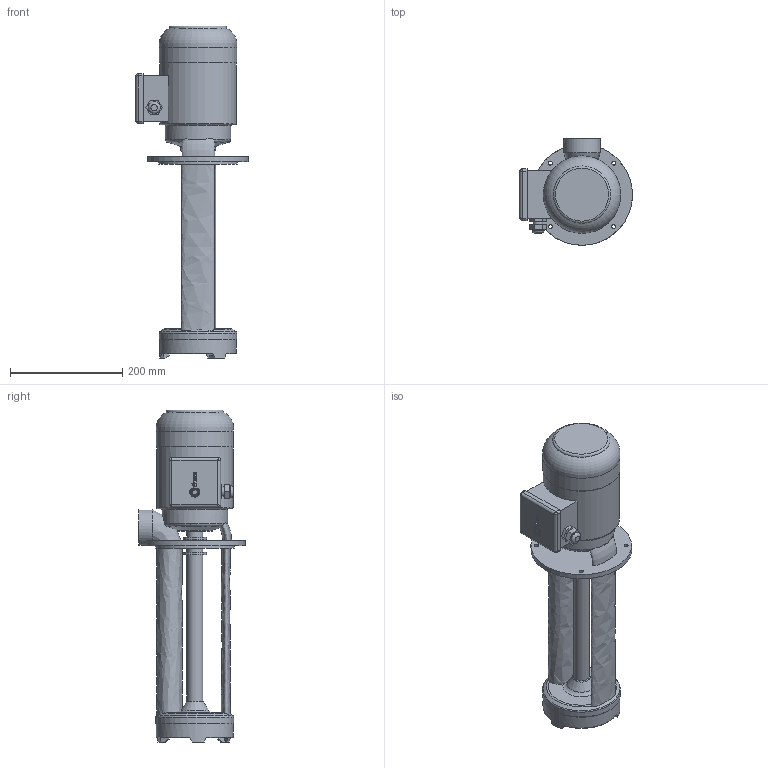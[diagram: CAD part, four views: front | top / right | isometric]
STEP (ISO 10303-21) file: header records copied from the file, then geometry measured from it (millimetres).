
FILE_DESCRIPTION(/* description */ ('Unknown'),/* implementation_level */ '2;1');
FILE_NAME(/* name */ 'EP 150-350',/* time_stamp */ '2023-03-08T16:17:13+03:00',/* author */ ('Unknown'),/* organization */ ('Unknown'),/* preprocessor_version */ 'ST-DEVELOPER v16.7',/* originating_system */ 'DEX',/* authorisation */ $);
FILE_SCHEMA (('AUTOMOTIVE_DESIGN {1 0 10303 214 3 1 1}'));
Length unit declared in the file: millimetre
Products named in the file (1): EP 150-350
Bounding box: 201.5 x 190 x 592.36 mm (x, y, z)
Volume: 5408915.3 mm3; surface area: 363608.5 mm2
Topology: 1 solids, 1 shells, 268 faces, 678 edges, 435 vertices
Faces by surface type: plane 91, bspline 81, cylinder 56, torus 26, cone 14
Full cylindrical faces by diameter (mm): 7 x4, 17 x1, 21.5 x1, 28 x1, 29 x3, 30 x1, 42 x2, 44 x1, 48 x1, 62 x1, 94 x1, 116.969 x1, 136.473 x1, 137 x1, 137.994 x1, 139 x1, 140 x1, 180 x1
Entity records: 11389 total; most frequent: CARTESIAN_POINT 5687, ORIENTED_EDGE 1212, DIRECTION 973, EDGE_CURVE 606, VERTEX_POINT 419, AXIS2_PLACEMENT_3D 372, EDGE_LOOP 363, FACE_BOUND 363
